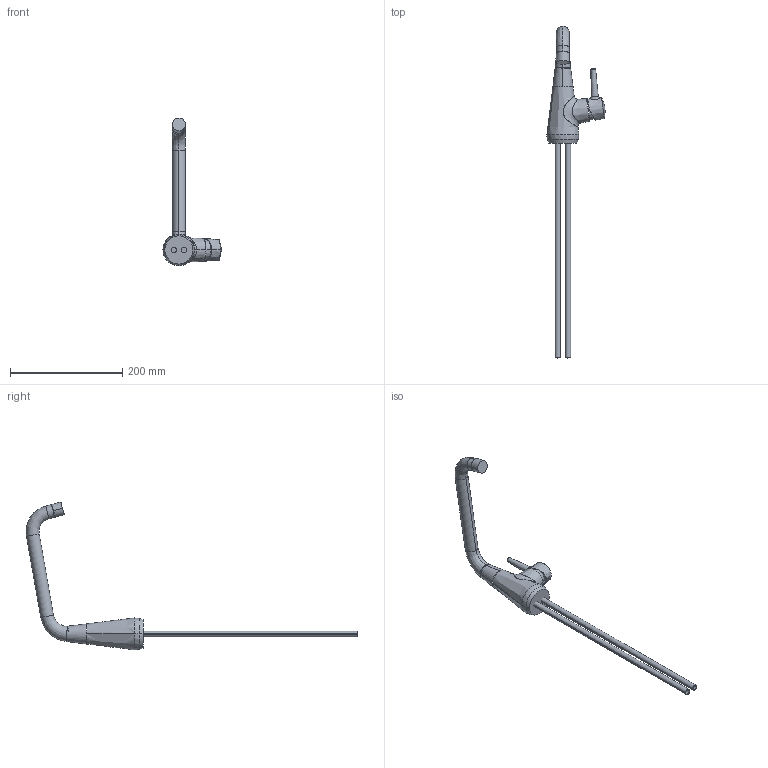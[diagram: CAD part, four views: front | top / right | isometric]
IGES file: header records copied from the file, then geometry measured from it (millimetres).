
Start section:  PTC IGES file: 90047_web.igs
Global section: file name: 90047_web.igs; native system: Creo Parametric by PTC Inc.; preprocessor: 2017380; author: jaj; organization: Unknown; date: 20180703.132608; units: millimetre
Bounding box: 103.65 x 590.73 x 263.11 mm (x, y, z)
Surface area: 105040.3 mm2 (no closed solid volume)
Topology: 0 solids, 0 shells, 51 faces, 320 edges, 372 vertices
Faces by surface type: revolution 36, bspline 15
